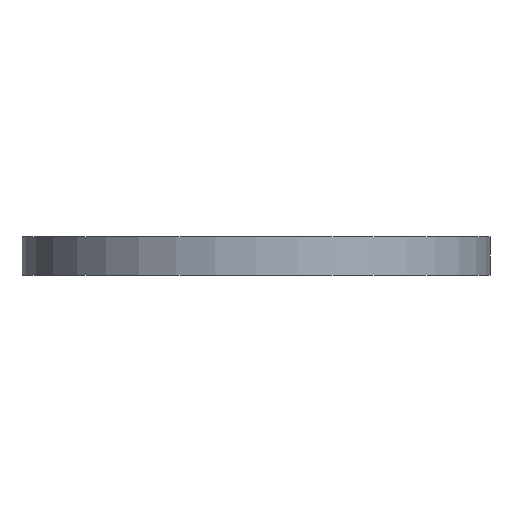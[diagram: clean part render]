
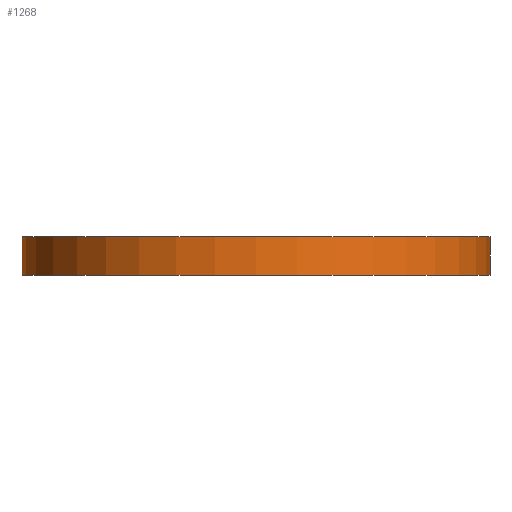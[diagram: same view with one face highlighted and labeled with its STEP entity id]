
A CAD part, front view. The second image highlights one B-rep face of the part: STEP entity #1268.
In plain terms, the highlighted cylindrical face has radius 342.5 mm (diameter 685 mm), a partial arc.
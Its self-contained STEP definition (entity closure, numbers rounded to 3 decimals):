
#140 = CIRCLE ( 'NONE', #264, 342.5 ) ;
#205 = EDGE_CURVE ( 'NONE', #1176, #512, #140, .T. ) ;
#260 = CARTESIAN_POINT ( 'NONE',  ( 342.5, 0., -57. ) ) ;
#264 = AXIS2_PLACEMENT_3D ( 'NONE', #1572, #462, #994 ) ;
#324 = CARTESIAN_POINT ( 'NONE',  ( 342.5, 0., 0. ) ) ;
#335 = EDGE_CURVE ( 'NONE', #1063, #1129, #573, .T. ) ;
#364 = DIRECTION ( 'NONE',  ( 1., 0., 0. ) ) ;
#412 = LINE ( 'NONE', #951, #1286 ) ;
#427 = CARTESIAN_POINT ( 'NONE',  ( 342.5, 0., -150. ) ) ;
#446 = CARTESIAN_POINT ( 'NONE',  ( 0., 0., -150. ) ) ;
#462 = DIRECTION ( 'NONE',  ( 0., 0., 1. ) ) ;
#512 = VERTEX_POINT ( 'NONE', #324 ) ;
#573 = CIRCLE ( 'NONE', #575, 342.5 ) ;
#575 = AXIS2_PLACEMENT_3D ( 'NONE', #1037, #1505, #364 ) ;
#757 = ORIENTED_EDGE ( 'NONE', *, *, #205, .F. ) ;
#765 = EDGE_CURVE ( 'NONE', #1063, #1176, #412, .T. ) ;
#825 = CARTESIAN_POINT ( 'NONE',  ( -342.5, 0., 0. ) ) ;
#884 = ORIENTED_EDGE ( 'NONE', *, *, #335, .T. ) ;
#951 = CARTESIAN_POINT ( 'NONE',  ( -342.5, 0., -150. ) ) ;
#952 = EDGE_LOOP ( 'NONE', ( #1484, #884, #1383, #757 ) ) ;
#969 = DIRECTION ( 'NONE',  ( 0., 0., 1. ) ) ;
#981 = DIRECTION ( 'NONE',  ( 0., 0., 1. ) ) ;
#994 = DIRECTION ( 'NONE',  ( 1., 0., 0. ) ) ;
#1037 = CARTESIAN_POINT ( 'NONE',  ( 0., 0., -57. ) ) ;
#1044 = VECTOR ( 'NONE', #969, 1000. ) ;
#1063 = VERTEX_POINT ( 'NONE', #1616 ) ;
#1100 = FACE_OUTER_BOUND ( 'NONE', #952, .T. ) ;
#1129 = VERTEX_POINT ( 'NONE', #260 ) ;
#1176 = VERTEX_POINT ( 'NONE', #825 ) ;
#1190 = AXIS2_PLACEMENT_3D ( 'NONE', #446, #981, #1465 ) ;
#1237 = EDGE_CURVE ( 'NONE', #1129, #512, #1549, .T. ) ;
#1268 = ADVANCED_FACE ( 'NONE', ( #1100 ), #1562, .T. ) ;
#1286 = VECTOR ( 'NONE', #1437, 1000. ) ;
#1383 = ORIENTED_EDGE ( 'NONE', *, *, #1237, .T. ) ;
#1437 = DIRECTION ( 'NONE',  ( 0., 0., 1. ) ) ;
#1465 = DIRECTION ( 'NONE',  ( 1., 0., 0. ) ) ;
#1484 = ORIENTED_EDGE ( 'NONE', *, *, #765, .F. ) ;
#1505 = DIRECTION ( 'NONE',  ( 0., 0., 1. ) ) ;
#1549 = LINE ( 'NONE', #427, #1044 ) ;
#1562 = CYLINDRICAL_SURFACE ( 'NONE', #1190, 342.5 ) ;
#1572 = CARTESIAN_POINT ( 'NONE',  ( 0., 0., 0. ) ) ;
#1616 = CARTESIAN_POINT ( 'NONE',  ( -342.5, 0., -57. ) ) ;
